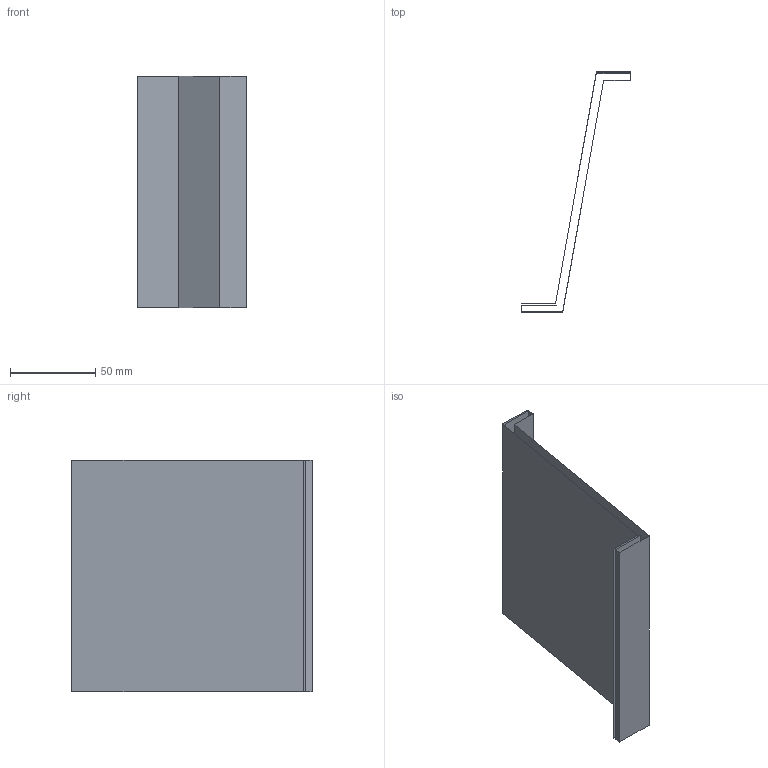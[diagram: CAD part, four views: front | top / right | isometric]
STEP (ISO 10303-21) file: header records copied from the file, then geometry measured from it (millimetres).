
FILE_DESCRIPTION(('CATIA V5 STEP Exchange'),'2;1');
FILE_NAME('C:\_Andres\UNIVERSIDAD\IQS\ASIGNATURAS\DAO\EXF\EXF-16172c\2inicio\Villarroya_Marquina_Ej06_v36.stp','2017-03-05T21:01:30+00:00',('none'),('none'),'CATIA Version 5-6 Release 2014 SP1 HF18','CATIA V5 STEP AP203','none');
FILE_SCHEMA(('CONFIG_CONTROL_DESIGN'));
Length unit declared in the file: millimetre
Products named in the file (1): Villarroya_Marquina_Ej06_v36
Bounding box: 64 x 141 x 136 mm (x, y, z)
Surface area: 54971.6 mm2 (no closed solid volume)
Topology: 0 solids, 2 shells, 10 faces, 42 edges, 36 vertices
Faces by surface type: plane 10
Entity records: 461 total; most frequent: CARTESIAN_POINT 100, DIRECTION 59, ORIENTED_EDGE 40, VECTOR 39, LINE 39, EDGE_CURVE 32, VERTEX_POINT 24, AXIS2_PLACEMENT_3D 11
